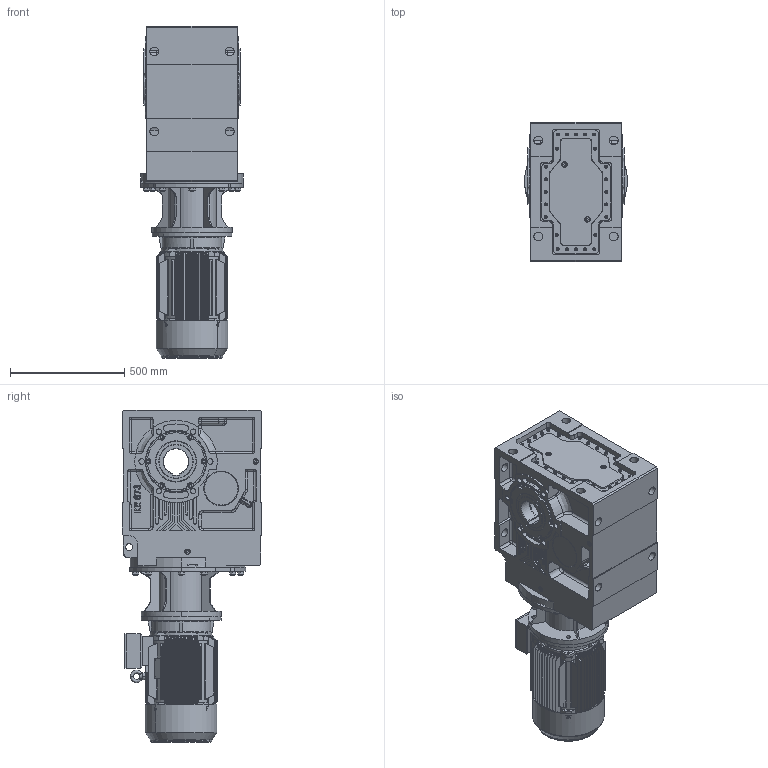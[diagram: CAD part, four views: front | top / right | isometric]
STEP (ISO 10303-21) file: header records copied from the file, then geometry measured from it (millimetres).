
FILE_DESCRIPTION (( 'STEP AP203' ), '1' );
FILE_NAME ('KV_873_0_M3-160L-4.STEP', '2019-07-18T09:11:11', ( '' ), ( '' ), 'SwSTEP 2.0', 'SolidWorks 2012', '' );
FILE_SCHEMA (( 'CONFIG_CONTROL_DESIGN' ));
Products named in the file (15): M3-160L-FF-B5; KV_873_0_M3-160L-4; +¦i-MN2-160_-++ñ; Y2-160-2ª¥--®+_-++ñ; Y2-160_shaft; +ª+§ªiY2-160ñ»ª­_-++ñ; Y2-160-4Ý¾6Ý¾8-ª+---®+_-++ñ; Eyebolts GB_GB_FASTENER_SCREWS_FRS M12N; Y2-160L+À+¿(B5)_-++ñ; Y2-160ñ»ª­+¿_-++ñ; KN_87_3_0_A-B16_B5_ML23A_0_0_0_0_0_0_0_0_0_0_0_0_M1; ML23A_Varsayìlan; Y2-160-180ñ»ª­®+_-++ñ; 83A160B5_Varsayìlan; K873_Varsayìlan
Assembly tree (14 placements, depth 4):
  KV_873_0_M3-160L-4
    KN_87_3_0_A-B16_B5_ML23A_0_0_0_0_0_0_0_0_0_0_0_0_M1
      K873_Varsayìlan
      83A160B5_Varsayìlan
      ML23A_Varsayìlan
    M3-160L-FF-B5
      +ª+§ªiY2-160ñ»ª­_-++ñ
        Y2-160-180ñ»ª­®+_-++ñ
        Y2-160ñ»ª­+¿_-++ñ
      Y2-160-4Ý¾6Ý¾8-ª+---®+_-++ñ
      Y2-160L+À+¿(B5)_-++ñ
      Eyebolts GB_GB_FASTENER_SCREWS_FRS M12N
      Y2-160-2ª¥--®+_-++ñ
      +¦i-MN2-160_-++ñ
      Y2-160_shaft
Bounding box: 450 x 610 x 1452 mm (x, y, z)
Volume: 23438746.7 mm3; surface area: 6524316.9 mm2
Topology: 10 solids, 57 shells, 3643 faces, 9330 edges, 5884 vertices
Faces by surface type: plane 1503, cylinder 1213, bspline 434, cone 386, torus 67, sphere 40
Entity records: 161596 total; most frequent: CARTESIAN_POINT 75625, ORIENTED_EDGE 18352, DIRECTION 16375, EDGE_CURVE 9196, AXIS2_PLACEMENT_3D 5938, VERTEX_POINT 5862, VECTOR 4499, LINE 4499
